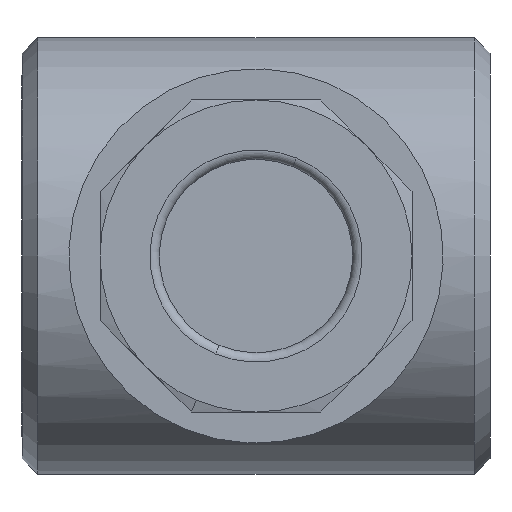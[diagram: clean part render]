
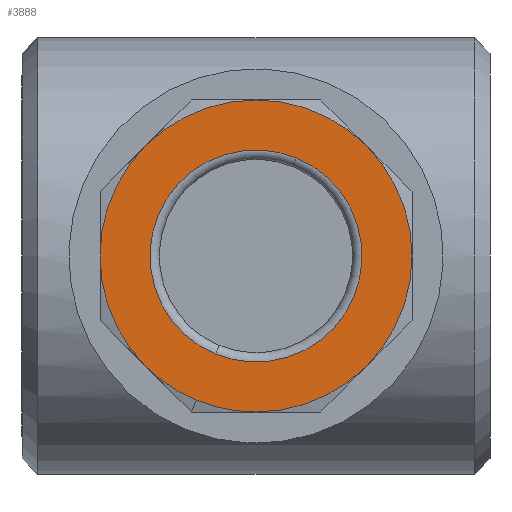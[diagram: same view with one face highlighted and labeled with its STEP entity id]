
A CAD part, left-side view. The second image highlights one B-rep face of the part: STEP entity #3888.
In plain terms, the highlighted planar face has unit normal (-1, 0, 0).
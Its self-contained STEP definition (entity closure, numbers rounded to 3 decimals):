
#405 = PLANE ( 'NONE',  #990 ) ;
#412 = CARTESIAN_POINT ( 'NONE',  ( -23.3, 13.119, 1.913 ) ) ;
#413 = DIRECTION ( 'NONE',  ( -1., 0., 0. ) ) ;
#414 = DIRECTION ( 'NONE',  ( 0., -0.383, 0.924 ) ) ;
#736 = ORIENTED_EDGE ( 'NONE', *, *, #3681, .T. ) ;
#737 = ORIENTED_EDGE ( 'NONE', *, *, #4097, .T. ) ;
#738 = ORIENTED_EDGE ( 'NONE', *, *, #3680, .F. ) ;
#739 = ORIENTED_EDGE ( 'NONE', *, *, #3679, .F. ) ;
#740 = ORIENTED_EDGE ( 'NONE', *, *, #4105, .F. ) ;
#741 = ORIENTED_EDGE ( 'NONE', *, *, #3682, .F. ) ;
#742 = ORIENTED_EDGE ( 'NONE', *, *, #3678, .F. ) ;
#743 = ORIENTED_EDGE ( 'NONE', *, *, #3677, .F. ) ;
#744 = ORIENTED_EDGE ( 'NONE', *, *, #3676, .F. ) ;
#745 = ORIENTED_EDGE ( 'NONE', *, *, #3675, .F. ) ;
#746 = ORIENTED_EDGE ( 'NONE', *, *, #3674, .F. ) ;
#932 = AXIS2_PLACEMENT_3D ( 'NONE', #2872, #2873, #2874 ) ;
#938 = AXIS2_PLACEMENT_3D ( 'NONE', #2897, #2898, #2899 ) ;
#990 = AXIS2_PLACEMENT_3D ( 'NONE', #412, #413, #414 ) ;
#1164 = CARTESIAN_POINT ( 'NONE',  ( -23.3, 8.5, 0. ) ) ;
#1165 = DIRECTION ( 'NONE',  ( 1., 0., 0. ) ) ;
#1166 = DIRECTION ( 'NONE',  ( 0., 0.383, -0.924 ) ) ;
#1167 = CARTESIAN_POINT ( 'NONE',  ( -23.3, 8.5, 0. ) ) ;
#1168 = DIRECTION ( 'NONE',  ( 1., 0., 0. ) ) ;
#1169 = DIRECTION ( 'NONE',  ( 0., 0.383, -0.924 ) ) ;
#1170 = CARTESIAN_POINT ( 'NONE',  ( -23.3, 8.5, 0. ) ) ;
#1171 = DIRECTION ( 'NONE',  ( 1., 0., 0. ) ) ;
#1172 = DIRECTION ( 'NONE',  ( 0., 0.383, -0.924 ) ) ;
#1173 = CARTESIAN_POINT ( 'NONE',  ( -23.3, 8.5, 0. ) ) ;
#1174 = DIRECTION ( 'NONE',  ( 1., 0., 0. ) ) ;
#1175 = DIRECTION ( 'NONE',  ( 0., 0.383, -0.924 ) ) ;
#1176 = CARTESIAN_POINT ( 'NONE',  ( -23.3, 8.5, 0. ) ) ;
#1177 = DIRECTION ( 'NONE',  ( 1., 0., 0. ) ) ;
#1178 = DIRECTION ( 'NONE',  ( 0., 0.383, -0.924 ) ) ;
#1179 = CARTESIAN_POINT ( 'NONE',  ( -23.3, 8.5, 0. ) ) ;
#1180 = DIRECTION ( 'NONE',  ( 1., 0., 0. ) ) ;
#1181 = DIRECTION ( 'NONE',  ( 0., 0.383, -0.924 ) ) ;
#1182 = CARTESIAN_POINT ( 'NONE',  ( -23.3, 8.5, 0. ) ) ;
#1183 = DIRECTION ( 'NONE',  ( 1., 0., 0. ) ) ;
#1184 = DIRECTION ( 'NONE',  ( 0., 0.383, -0.924 ) ) ;
#1185 = CARTESIAN_POINT ( 'NONE',  ( -23.3, 8.5, 0. ) ) ;
#1186 = DIRECTION ( 'NONE',  ( 1., 0., 0. ) ) ;
#1187 = DIRECTION ( 'NONE',  ( 0., -0.383, 0.924 ) ) ;
#1188 = CARTESIAN_POINT ( 'NONE',  ( -23.3, 8.5, 0. ) ) ;
#1189 = DIRECTION ( 'NONE',  ( 1., 0., 0. ) ) ;
#1190 = DIRECTION ( 'NONE',  ( 0., 0.383, -0.924 ) ) ;
#1750 = CARTESIAN_POINT ( 'NONE',  ( -23.3, 10.413, -4.619 ) ) ;
#1751 = CARTESIAN_POINT ( 'NONE',  ( -23.3, 8.5, -5. ) ) ;
#1757 = CARTESIAN_POINT ( 'NONE',  ( -23.3, 7.199, 3.141 ) ) ;
#1762 = CARTESIAN_POINT ( 'NONE',  ( -23.3, 9.801, -3.141 ) ) ;
#1916 = CIRCLE ( 'NONE', #932, 3.4 ) ;
#1925 = CIRCLE ( 'NONE', #938, 5. ) ;
#2872 = CARTESIAN_POINT ( 'NONE',  ( -23.3, 8.5, 0. ) ) ;
#2873 = DIRECTION ( 'NONE',  ( 1., 0., 0. ) ) ;
#2874 = DIRECTION ( 'NONE',  ( 0., -0.383, 0.924 ) ) ;
#2897 = CARTESIAN_POINT ( 'NONE',  ( -23.3, 8.5, 0. ) ) ;
#2898 = DIRECTION ( 'NONE',  ( 1., 0., 0. ) ) ;
#2899 = DIRECTION ( 'NONE',  ( 0., 0.383, -0.924 ) ) ;
#2927 = CARTESIAN_POINT ( 'NONE',  ( -23.3, 12.036, 3.536 ) ) ;
#2931 = CARTESIAN_POINT ( 'NONE',  ( -23.3, 13.5, 0. ) ) ;
#2932 = CARTESIAN_POINT ( 'NONE',  ( -23.3, 12.036, -3.536 ) ) ;
#2934 = CARTESIAN_POINT ( 'NONE',  ( -23.3, 8.5, 5. ) ) ;
#2936 = CARTESIAN_POINT ( 'NONE',  ( -23.3, 4.964, 3.536 ) ) ;
#2940 = CARTESIAN_POINT ( 'NONE',  ( -23.3, 3.5, 0. ) ) ;
#2950 = CARTESIAN_POINT ( 'NONE',  ( -23.3, 4.964, -3.536 ) ) ;
#3070 = FACE_BOUND ( 'NONE', #4624, .T. ) ;
#3071 = FACE_OUTER_BOUND ( 'NONE', #4598, .T. ) ;
#3412 = CIRCLE ( 'NONE', #4141, 5. ) ;
#3414 = CIRCLE ( 'NONE', #4142, 5. ) ;
#3415 = CIRCLE ( 'NONE', #4149, 5. ) ;
#3416 = CIRCLE ( 'NONE', #4143, 5. ) ;
#3417 = CIRCLE ( 'NONE', #4144, 5. ) ;
#3418 = CIRCLE ( 'NONE', #4145, 5. ) ;
#3419 = CIRCLE ( 'NONE', #4146, 5. ) ;
#3420 = CIRCLE ( 'NONE', #4147, 5. ) ;
#3421 = CIRCLE ( 'NONE', #4148, 3.4 ) ;
#3674 = EDGE_CURVE ( 'NONE', #4247, #4243, #3412, .T. ) ;
#3675 = EDGE_CURVE ( 'NONE', #4243, #4250, #3414, .T. ) ;
#3676 = EDGE_CURVE ( 'NONE', #4250, #4252, #3416, .T. ) ;
#3677 = EDGE_CURVE ( 'NONE', #4252, #4262, #3417, .T. ) ;
#3678 = EDGE_CURVE ( 'NONE', #4262, #4272, #3418, .T. ) ;
#3679 = EDGE_CURVE ( 'NONE', #4706, #4248, #3419, .T. ) ;
#3680 = EDGE_CURVE ( 'NONE', #4248, #4247, #3420, .T. ) ;
#3681 = EDGE_CURVE ( 'NONE', #4713, #4718, #3421, .T. ) ;
#3682 = EDGE_CURVE ( 'NONE', #4272, #4707, #3415, .T. ) ;
#3888 = ADVANCED_FACE ( 'NONE', ( #3070, #3071 ), #405, .T. ) ;
#4097 = EDGE_CURVE ( 'NONE', #4718, #4713, #1916, .T. ) ;
#4105 = EDGE_CURVE ( 'NONE', #4707, #4706, #1925, .T. ) ;
#4141 = AXIS2_PLACEMENT_3D ( 'NONE', #1164, #1165, #1166 ) ;
#4142 = AXIS2_PLACEMENT_3D ( 'NONE', #1167, #1168, #1169 ) ;
#4143 = AXIS2_PLACEMENT_3D ( 'NONE', #1170, #1171, #1172 ) ;
#4144 = AXIS2_PLACEMENT_3D ( 'NONE', #1173, #1174, #1175 ) ;
#4145 = AXIS2_PLACEMENT_3D ( 'NONE', #1176, #1177, #1178 ) ;
#4146 = AXIS2_PLACEMENT_3D ( 'NONE', #1179, #1180, #1181 ) ;
#4147 = AXIS2_PLACEMENT_3D ( 'NONE', #1182, #1183, #1184 ) ;
#4148 = AXIS2_PLACEMENT_3D ( 'NONE', #1185, #1186, #1187 ) ;
#4149 = AXIS2_PLACEMENT_3D ( 'NONE', #1188, #1189, #1190 ) ;
#4243 = VERTEX_POINT ( 'NONE', #2927 ) ;
#4247 = VERTEX_POINT ( 'NONE', #2931 ) ;
#4248 = VERTEX_POINT ( 'NONE', #2932 ) ;
#4250 = VERTEX_POINT ( 'NONE', #2934 ) ;
#4252 = VERTEX_POINT ( 'NONE', #2936 ) ;
#4262 = VERTEX_POINT ( 'NONE', #2940 ) ;
#4272 = VERTEX_POINT ( 'NONE', #2950 ) ;
#4598 = EDGE_LOOP ( 'NONE', ( #738, #739, #740, #741, #742, #743, #744, #745, #746 ) ) ;
#4624 = EDGE_LOOP ( 'NONE', ( #736, #737 ) ) ;
#4706 = VERTEX_POINT ( 'NONE', #1750 ) ;
#4707 = VERTEX_POINT ( 'NONE', #1751 ) ;
#4713 = VERTEX_POINT ( 'NONE', #1757 ) ;
#4718 = VERTEX_POINT ( 'NONE', #1762 ) ;
